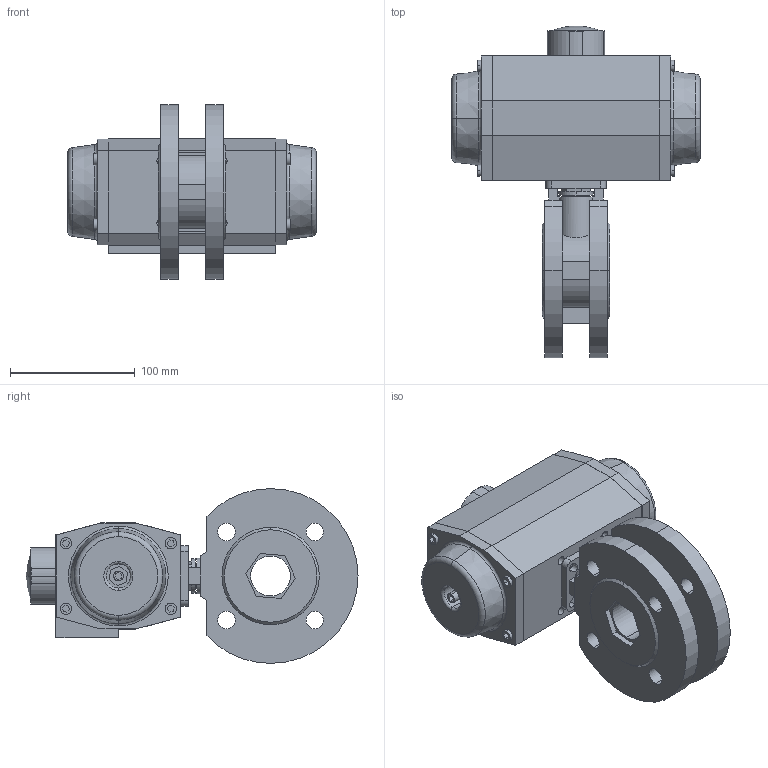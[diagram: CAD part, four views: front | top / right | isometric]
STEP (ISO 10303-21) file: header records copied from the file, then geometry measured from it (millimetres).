
FILE_DESCRIPTION (( 'STEP AP214' ), '1' );
FILE_NAME ('S15D DN32 + AP3.STEP', '2012-04-24T08:18:15', ( 'Jan' ), ( '' ), 'SwSTEP 2.0', 'SolidWorks 2011', '' );
FILE_SCHEMA (( 'AUTOMOTIVE_DESIGN' ));
Length unit declared in the file: millimetre
Products named in the file (3): S15D DN32 + AP3; S15D KK DN32 PN16; AP3_Default<As Machined>
Assembly tree (2 placements, depth 2):
  S15D DN32 + AP3
    AP3_Default<As Machined>
    S15D KK DN32 PN16
Bounding box: 199 x 265.99 x 140 mm (x, y, z)
Volume: 1952602.6 mm3; surface area: 189898.1 mm2
Topology: 9 solids, 9 shells, 414 faces, 1045 edges, 663 vertices
Faces by surface type: plane 230, cylinder 126, cone 44, torus 12, sphere 2
Entity records: 13843 total; most frequent: DIRECTION 2145, CARTESIAN_POINT 2142, ORIENTED_EDGE 2018, EDGE_CURVE 1009, AXIS2_PLACEMENT_3D 720, LINE 705, VECTOR 705, VERTEX_POINT 663
